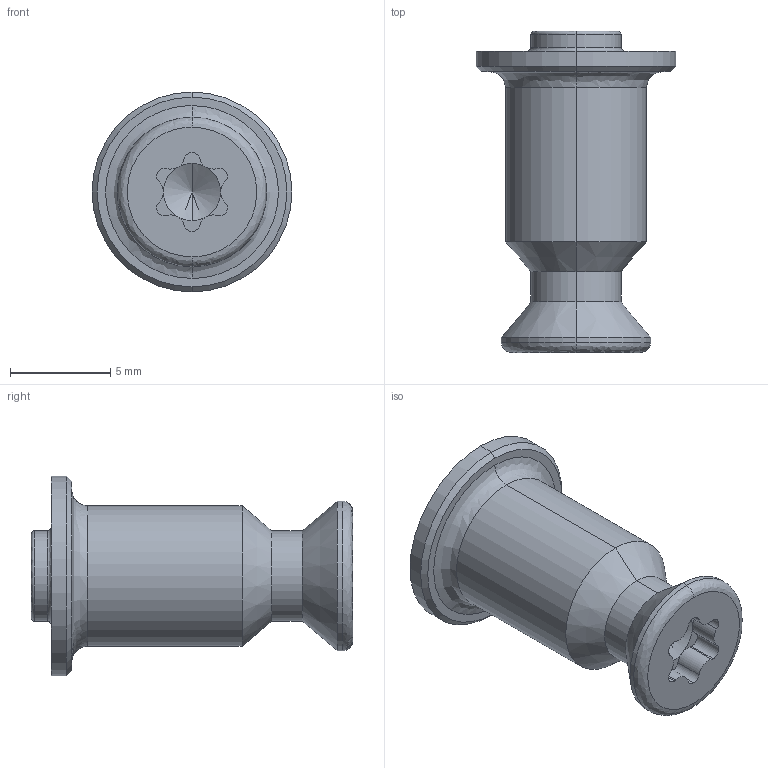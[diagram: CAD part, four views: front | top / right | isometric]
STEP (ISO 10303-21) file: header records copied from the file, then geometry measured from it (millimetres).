
FILE_DESCRIPTION (( 'STEP AP203' ), '1' );
FILE_NAME ('QS022-IF-M4.STEP', '2017-06-07T06:39:19', ( '' ), ( '' ), 'SwSTEP 2.0', 'SolidWorks 2017', '' );
FILE_SCHEMA (( 'CONFIG_CONTROL_DESIGN' ));
Length unit declared in the file: millimetre
Products named in the file (1): QS022-IF-M4
Bounding box: 9.95 x 16 x 9.95 mm (x, y, z)
Volume: 463.4 mm3; surface area: 616.5 mm2
Topology: 1 solids, 1 shells, 59 faces, 137 edges, 80 vertices
Faces by surface type: cylinder 29, cone 12, plane 10, bspline 8
Entity records: 1934 total; most frequent: CARTESIAN_POINT 521, DIRECTION 313, ORIENTED_EDGE 266, AXIS2_PLACEMENT_3D 136, EDGE_CURVE 133, CIRCLE 84, VERTEX_POINT 80, EDGE_LOOP 63
